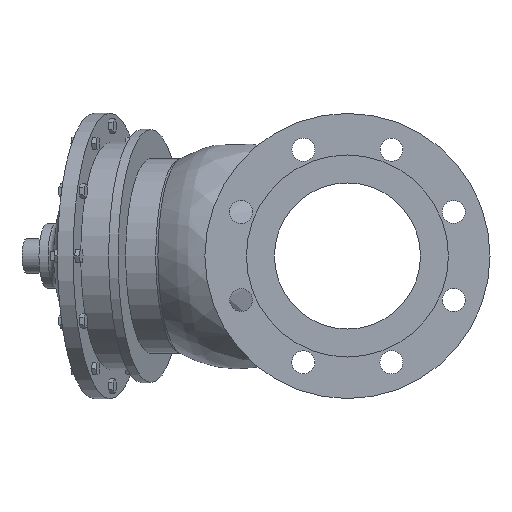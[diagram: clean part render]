
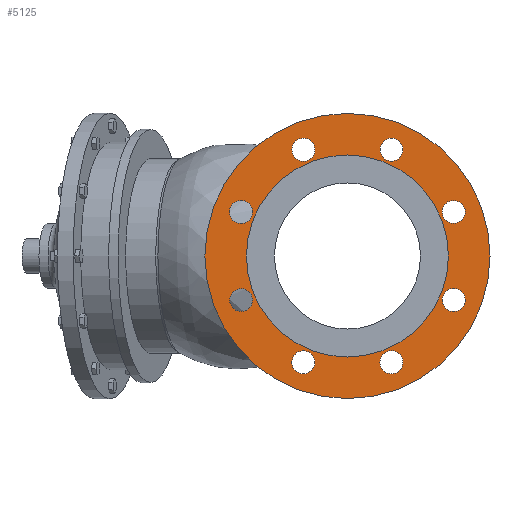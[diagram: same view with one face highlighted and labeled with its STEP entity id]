
A CAD part, left-side view. The second image highlights one B-rep face of the part: STEP entity #5125.
In plain terms, the highlighted planar face has unit normal (-1, 0, 0).
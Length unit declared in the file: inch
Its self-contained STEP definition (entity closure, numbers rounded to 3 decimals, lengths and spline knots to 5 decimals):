
#250=PLANE('',#5494);
#297=FACE_BOUND('',#944,.T.);
#298=FACE_BOUND('',#945,.T.);
#299=FACE_BOUND('',#946,.T.);
#300=FACE_BOUND('',#947,.T.);
#301=FACE_BOUND('',#948,.T.);
#302=FACE_BOUND('',#949,.T.);
#303=FACE_BOUND('',#950,.T.);
#304=FACE_BOUND('',#951,.T.);
#305=FACE_BOUND('',#952,.T.);
#642=FACE_OUTER_BOUND('',#943,.T.);
#943=EDGE_LOOP('',(#4505,#4506));
#944=EDGE_LOOP('',(#4507));
#945=EDGE_LOOP('',(#4508));
#946=EDGE_LOOP('',(#4509));
#947=EDGE_LOOP('',(#4510));
#948=EDGE_LOOP('',(#4511));
#949=EDGE_LOOP('',(#4512));
#950=EDGE_LOOP('',(#4513));
#951=EDGE_LOOP('',(#4514));
#952=EDGE_LOOP('',(#4515,#4516));
#2008=CIRCLE('',#5154,0.35433);
#2010=CIRCLE('',#5157,0.35433);
#2012=CIRCLE('',#5160,0.35433);
#2014=CIRCLE('',#5163,0.35433);
#2016=CIRCLE('',#5166,0.35433);
#2018=CIRCLE('',#5169,0.35433);
#2020=CIRCLE('',#5172,0.35433);
#2022=CIRCLE('',#5175,0.35433);
#2105=CIRCLE('',#5492,3.11024);
#2106=CIRCLE('',#5493,3.11024);
#2107=CIRCLE('',#5495,4.39);
#2108=CIRCLE('',#5496,4.39);
#2119=VERTEX_POINT('',#6789);
#2121=VERTEX_POINT('',#6795);
#2123=VERTEX_POINT('',#6801);
#2125=VERTEX_POINT('',#6807);
#2127=VERTEX_POINT('',#6813);
#2129=VERTEX_POINT('',#6819);
#2131=VERTEX_POINT('',#6825);
#2133=VERTEX_POINT('',#6831);
#2560=VERTEX_POINT('',#9291);
#2561=VERTEX_POINT('',#9292);
#2562=VERTEX_POINT('',#9297);
#2563=VERTEX_POINT('',#9298);
#2574=EDGE_CURVE('',#2119,#2119,#2008,.T.);
#2577=EDGE_CURVE('',#2121,#2121,#2010,.T.);
#2580=EDGE_CURVE('',#2123,#2123,#2012,.T.);
#2583=EDGE_CURVE('',#2125,#2125,#2014,.T.);
#2586=EDGE_CURVE('',#2127,#2127,#2016,.T.);
#2589=EDGE_CURVE('',#2129,#2129,#2018,.T.);
#2592=EDGE_CURVE('',#2131,#2131,#2020,.T.);
#2595=EDGE_CURVE('',#2133,#2133,#2022,.T.);
#3223=EDGE_CURVE('',#2560,#2561,#2105,.T.);
#3224=EDGE_CURVE('',#2561,#2560,#2106,.T.);
#3226=EDGE_CURVE('',#2562,#2563,#2107,.T.);
#3227=EDGE_CURVE('',#2563,#2562,#2108,.T.);
#4505=ORIENTED_EDGE('',*,*,#3226,.F.);
#4506=ORIENTED_EDGE('',*,*,#3227,.F.);
#4507=ORIENTED_EDGE('',*,*,#2574,.T.);
#4508=ORIENTED_EDGE('',*,*,#2577,.T.);
#4509=ORIENTED_EDGE('',*,*,#2580,.T.);
#4510=ORIENTED_EDGE('',*,*,#2583,.T.);
#4511=ORIENTED_EDGE('',*,*,#2586,.T.);
#4512=ORIENTED_EDGE('',*,*,#2589,.T.);
#4513=ORIENTED_EDGE('',*,*,#2592,.T.);
#4514=ORIENTED_EDGE('',*,*,#2595,.T.);
#4515=ORIENTED_EDGE('',*,*,#3223,.T.);
#4516=ORIENTED_EDGE('',*,*,#3224,.T.);
#5125=ADVANCED_FACE('',(#642,#297,#298,#299,#300,#301,#302,#303,#304,#305),
#250,.T.);
#5154=AXIS2_PLACEMENT_3D('',#6790,#5531,#5532);
#5157=AXIS2_PLACEMENT_3D('',#6796,#5538,#5539);
#5160=AXIS2_PLACEMENT_3D('',#6802,#5545,#5546);
#5163=AXIS2_PLACEMENT_3D('',#6808,#5552,#5553);
#5166=AXIS2_PLACEMENT_3D('',#6814,#5559,#5560);
#5169=AXIS2_PLACEMENT_3D('',#6820,#5566,#5567);
#5172=AXIS2_PLACEMENT_3D('',#6826,#5573,#5574);
#5175=AXIS2_PLACEMENT_3D('',#6832,#5580,#5581);
#5492=AXIS2_PLACEMENT_3D('',#9293,#6713,#6714);
#5493=AXIS2_PLACEMENT_3D('',#9294,#6715,#6716);
#5494=AXIS2_PLACEMENT_3D('',#9296,#6718,#6719);
#5495=AXIS2_PLACEMENT_3D('',#9299,#6720,#6721);
#5496=AXIS2_PLACEMENT_3D('',#9300,#6722,#6723);
#5531=DIRECTION('center_axis',(1.,0.,0.));
#5532=DIRECTION('ref_axis',(0.,0.707,0.707));
#5538=DIRECTION('center_axis',(1.,0.,0.));
#5539=DIRECTION('ref_axis',(0.,1.,0.));
#5545=DIRECTION('center_axis',(1.,0.,0.));
#5546=DIRECTION('ref_axis',(0.,0.707,-0.707));
#5552=DIRECTION('center_axis',(1.,0.,0.));
#5553=DIRECTION('ref_axis',(0.,0.,-1.));
#5559=DIRECTION('center_axis',(1.,0.,0.));
#5560=DIRECTION('ref_axis',(0.,-0.707,-0.707));
#5566=DIRECTION('center_axis',(1.,0.,0.));
#5567=DIRECTION('ref_axis',(0.,-1.,0.));
#5573=DIRECTION('center_axis',(1.,0.,0.));
#5574=DIRECTION('ref_axis',(0.,-0.707,0.707));
#5580=DIRECTION('center_axis',(1.,0.,0.));
#5581=DIRECTION('ref_axis',(0.,0.,1.));
#6713=DIRECTION('center_axis',(1.,0.,0.));
#6714=DIRECTION('ref_axis',(0.,0.,-1.));
#6715=DIRECTION('center_axis',(1.,0.,0.));
#6716=DIRECTION('ref_axis',(0.,0.,-1.));
#6718=DIRECTION('center_axis',(-1.,0.,0.));
#6719=DIRECTION('ref_axis',(0.,0.,1.));
#6720=DIRECTION('center_axis',(1.,0.,0.));
#6721=DIRECTION('ref_axis',(0.,0.,-1.));
#6722=DIRECTION('center_axis',(1.,0.,0.));
#6723=DIRECTION('ref_axis',(0.,0.,-1.));
#6789=CARTESIAN_POINT('',(-6.18189,1.10541,-3.52414));
#6790=CARTESIAN_POINT('Origin',(-6.18189,1.35596,-3.27359));
#6795=CARTESIAN_POINT('',(-6.18189,-1.71029,-3.27359));
#6796=CARTESIAN_POINT('Origin',(-6.18189,-1.35596,-3.27359));
#6801=CARTESIAN_POINT('',(-6.18189,-3.52414,-1.10541));
#6802=CARTESIAN_POINT('Origin',(-6.18189,-3.27359,-1.35596));
#6807=CARTESIAN_POINT('',(-6.18189,-3.27359,1.71029));
#6808=CARTESIAN_POINT('Origin',(-6.18189,-3.27359,1.35596));
#6813=CARTESIAN_POINT('',(-6.18189,-1.10541,3.52414));
#6814=CARTESIAN_POINT('Origin',(-6.18189,-1.35596,3.27359));
#6819=CARTESIAN_POINT('',(-6.18189,1.71029,3.27359));
#6820=CARTESIAN_POINT('Origin',(-6.18189,1.35596,3.27359));
#6825=CARTESIAN_POINT('',(-6.18189,3.52414,1.10541));
#6826=CARTESIAN_POINT('Origin',(-6.18189,3.27359,1.35596));
#6831=CARTESIAN_POINT('',(-6.18189,3.27359,-1.71029));
#6832=CARTESIAN_POINT('Origin',(-6.18189,3.27359,-1.35596));
#9291=CARTESIAN_POINT('',(-6.18189,3.11024,0.));
#9292=CARTESIAN_POINT('',(-6.18189,-3.11024,0.));
#9293=CARTESIAN_POINT('Origin',(-6.18189,0.,0.));
#9294=CARTESIAN_POINT('Origin',(-6.18189,0.,0.));
#9296=CARTESIAN_POINT('Origin',(-6.18189,4.39,0.));
#9297=CARTESIAN_POINT('',(-6.18189,4.39,0.));
#9298=CARTESIAN_POINT('',(-6.18189,-4.39,0.));
#9299=CARTESIAN_POINT('Origin',(-6.18189,0.,0.));
#9300=CARTESIAN_POINT('Origin',(-6.18189,0.,0.));
